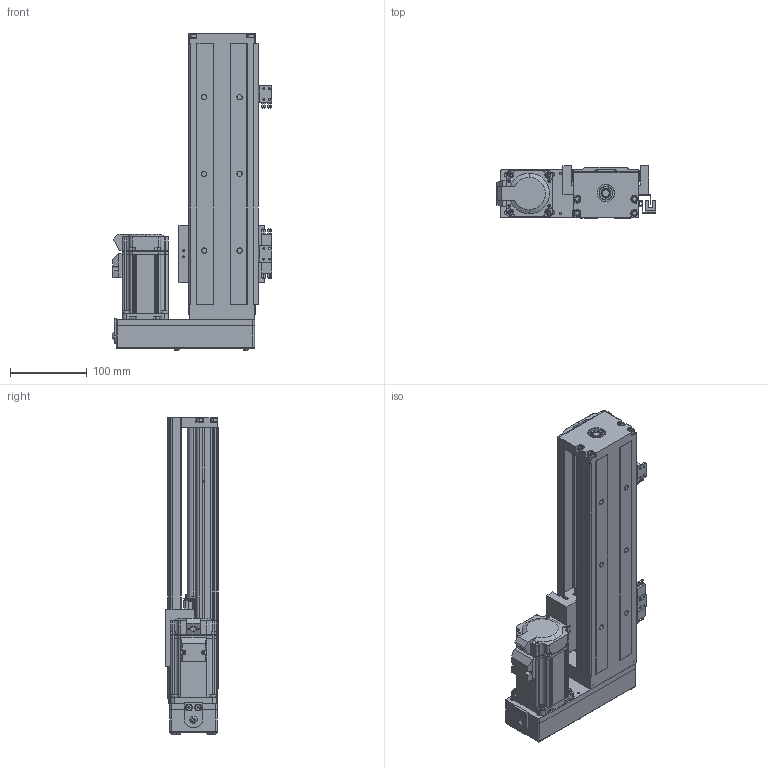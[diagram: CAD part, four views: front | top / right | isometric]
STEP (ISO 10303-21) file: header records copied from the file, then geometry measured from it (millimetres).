
FILE_DESCRIPTION (( 'STEP AP214' ), '1' );
FILE_NAME ('SFKK86-340A1-HL0C.STEP', '2023-02-17T07:00:28', ( '微软用户' ), ( '微软中国' ), 'SwSTEP 2.0', 'SolidWorks 2018', '' );
FILE_SCHEMA (( 'AUTOMOTIVE_DESIGN' ));
Length unit declared in the file: millimetre
Products named in the file (12): SFKK86-CU_340; 极限轨道与开关固定座组合_340; SFKK86-H0-侂狟400W耜蚾; SFKK86-LR 憤癹寢耋_340; SFKK86-A1-C; SFKK86-H0_KKR86-ZT-P-340; 带盖挡光片：KK-86-S2-D1; hexagon socket countersunk head screws gb_GB_FASTENER_SCREWS_HSCHS M4X10-N; SX674嫖萇羲壽; hexagon socket countersunk head screws gb_GB_FASTENER_SCREWS_HSCHS M3X8-N; 开关固定座：KK-674S2-F; SFKK86-340A1-HL0C
Assembly tree (18 placements, depth 3):
  SFKK86-340A1-HL0C
    SFKK86-H0_KKR86-ZT-P-340
    SFKK86-A1-C
    hexagon socket countersunk head screws gb_GB_FASTENER_SCREWS_HSCHS M3X8-N  x2
    SFKK86-CU_340
    hexagon socket countersunk head screws gb_GB_FASTENER_SCREWS_HSCHS M4X10-N  x4
    SFKK86-H0-侂狟400W耜蚾
    极限轨道与开关固定座组合_340
      SFKK86-LR 憤癹寢耋_340
      开关固定座：KK-674S2-F  x2
    SX674嫖萇羲壽  x3
    带盖挡光片：KK-86-S2-D1
Bounding box: 208.5 x 68 x 413.2 mm (x, y, z)
Volume: 1134436.6 mm3; surface area: 508400.3 mm2
Topology: 38 solids, 87 shells, 3612 faces, 9615 edges, 6161 vertices
Faces by surface type: plane 1623, cylinder 1444, cone 309, torus 105, bspline 98, sphere 33
Entity records: 134726 total; most frequent: CARTESIAN_POINT 28022, DIRECTION 18114, ORIENTED_EDGE 17330, EDGE_CURVE 8948, AXIS2_PLACEMENT_3D 6511, VERTEX_POINT 5835, VECTOR 5092, LINE 5092
